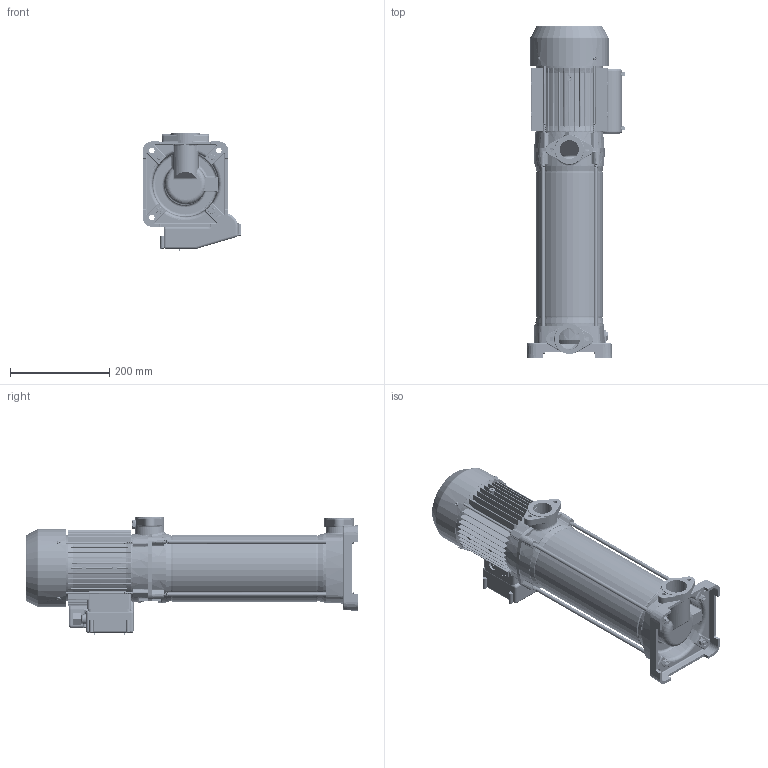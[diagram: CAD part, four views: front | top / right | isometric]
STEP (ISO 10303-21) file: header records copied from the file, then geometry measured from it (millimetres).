
FILE_DESCRIPTION (( 'STEP AP203' ), '1' );
FILE_NAME ('MCXV_3-12-FM.STEP', '2022-08-04T12:48:36', ( '' ), ( '' ), 'SwSTEP 2.0', 'SolidWorks 2021', '' );
FILE_SCHEMA (( 'CONFIG_CONTROL_DESIGN' ));
Products named in the file (1): MCXV_3-12-FM
Bounding box: 198.8 x 669.15 x 236 mm (x, y, z)
Volume: 9040580.3 mm3; surface area: 884725.8 mm2
Topology: 1 solids, 39 shells, 4422 faces, 12118 edges, 7604 vertices
Faces by surface type: plane 1711, cylinder 1564, cone 474, bspline 302, torus 301, sphere 70
Entity records: 208530 total; most frequent: CARTESIAN_POINT 103548, ORIENTED_EDGE 23978, DIRECTION 19880, EDGE_CURVE 11989, VERTEX_POINT 7587, AXIS2_PLACEMENT_3D 7341, VECTOR 5198, LINE 5198
